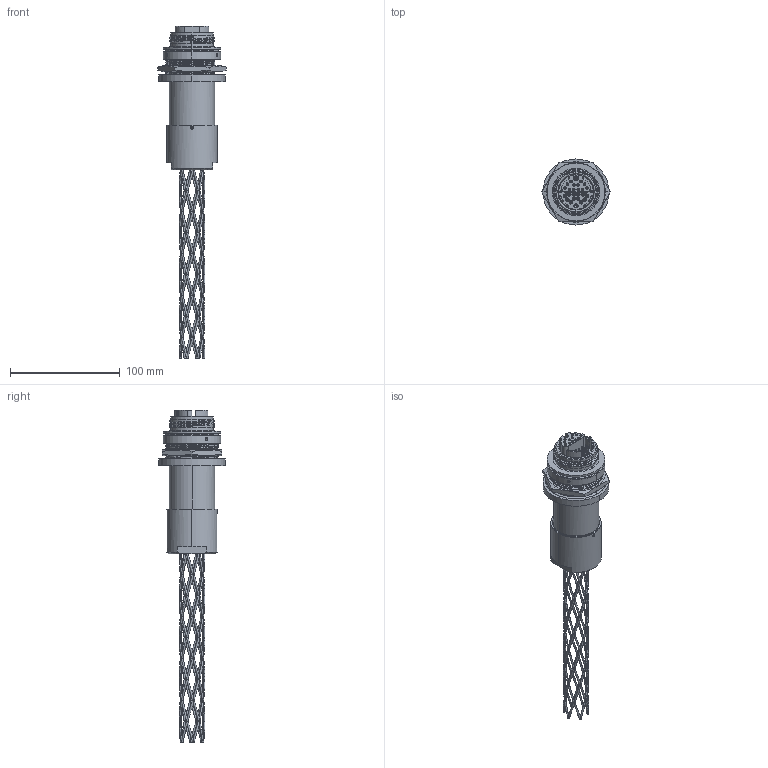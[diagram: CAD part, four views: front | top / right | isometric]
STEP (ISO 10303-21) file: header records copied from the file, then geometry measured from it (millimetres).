
FILE_DESCRIPTION (( 'STEP AP214' ), '1' );
FILE_NAME ('QFOCA3-G1-RMFX-24X-X-GX.STEP', '2025-08-05T21:44:25', ( '' ), ( '' ), 'SwSTEP 2.0', 'SolidWorks 2024', '' );
FILE_SCHEMA (( 'AUTOMOTIVE_DESIGN' ));
Length unit declared in the file: inch
Products named in the file (1): QFOCA3-G1-RMFX-24X-X-GX
Bounding box: 62.33 x 60.07 x 301.94 mm (x, y, z)
Volume: 207682.9 mm3; surface area: 62290.9 mm2
Topology: 19 solids, 30 shells, 1578 faces, 3810 edges, 2245 vertices
Faces by surface type: cylinder 483, cone 340, bspline 259, plane 252, torus 244
Entity records: 167434 total; most frequent: CARTESIAN_POINT 132761, ORIENTED_EDGE 7616, DIRECTION 7069, EDGE_CURVE 3808, AXIS2_PLACEMENT_3D 2986, VERTEX_POINT 2245, EDGE_LOOP 1703, CIRCLE 1666
